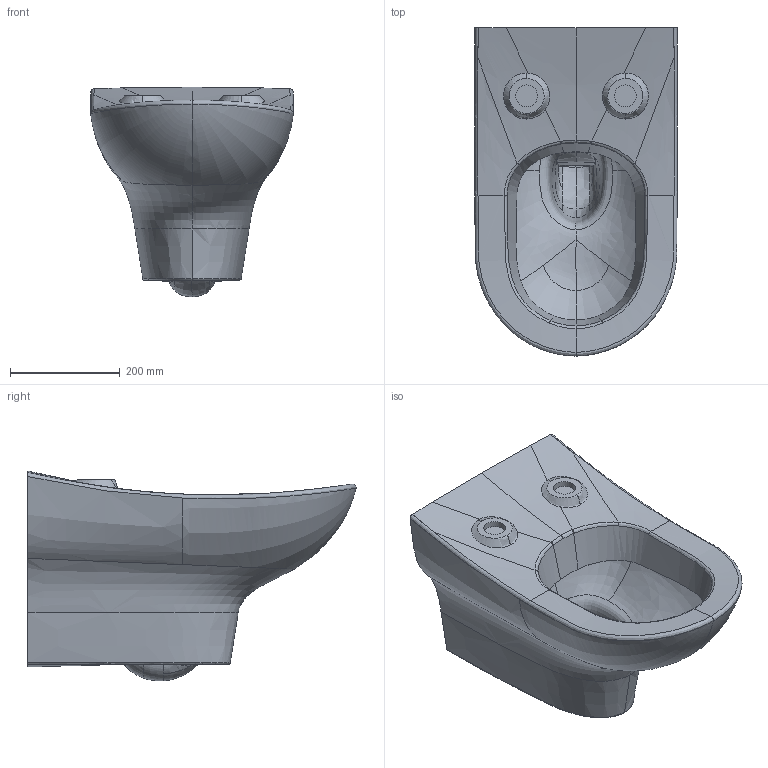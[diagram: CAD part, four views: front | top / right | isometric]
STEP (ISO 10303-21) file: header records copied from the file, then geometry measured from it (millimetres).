
FILE_DESCRIPTION(/* description */ (''),/* implementation_level */ '2;1');
FILE_NAME(/* name */ '561010_My_Nature_WWC.stp',/* time_stamp */ '2019-03-08T11:07:00+01:00',/* author */ (''),/* organization */ (''),/* preprocessor_version */ 'ST-DEVELOPER v16',/* originating_system */ 'SIEMENS PLM Software NX 10.0',/* authorisation */ '');
FILE_SCHEMA (('AUTOMOTIVE_DESIGN { 1 0 10303 214 3 1 1 1 }'));
Products named in the file (1): Sier18845CB3194a
Bounding box: 369.45 x 598.23 x 382.44 mm (x, y, z)
Volume: 27374644.2 mm3; surface area: 949468.6 mm2
Topology: 1 solids, 1 shells, 147 faces, 434 edges, 286 vertices
Faces by surface type: bspline 129, plane 8, extrusion 6, cylinder 2, cone 2
Full cylindrical faces by diameter (mm): 40 x2
Entity records: 57917 total; most frequent: CARTESIAN_POINT 55275, ORIENTED_EDGE 850, EDGE_CURVE 425, B_SPLINE_CURVE_WITH_KNOTS 381, VERTEX_POINT 285, EDGE_LOOP 150, ADVANCED_FACE 146, FACE_OUTER_BOUND 142
